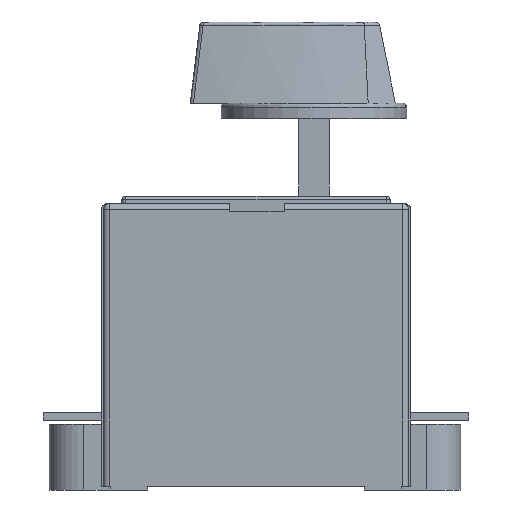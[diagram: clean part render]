
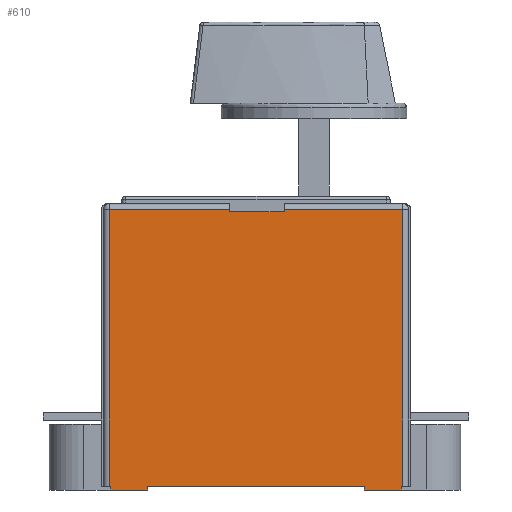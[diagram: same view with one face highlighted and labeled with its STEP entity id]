
A CAD part, left-side view. The second image highlights one B-rep face of the part: STEP entity #610.
In plain terms, the highlighted planar face has unit normal (-1, 0, 0).
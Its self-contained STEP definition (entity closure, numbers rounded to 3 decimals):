
#610=ADVANCED_FACE('',(#1215),#984,.F.);
#984=PLANE('',#6984);
#1215=FACE_OUTER_BOUND('',#1566,.T.);
#1566=EDGE_LOOP('',(#2395,#2396,#2397,#2398,#2399,#2400,#2401,#2402,#2403,
#2404,#2405,#2406,#2407,#2408,#2409,#2410));
#2395=ORIENTED_EDGE('',*,*,#4844,.F.);
#2396=ORIENTED_EDGE('',*,*,#4845,.T.);
#2397=ORIENTED_EDGE('',*,*,#4846,.T.);
#2398=ORIENTED_EDGE('',*,*,#4847,.F.);
#2399=ORIENTED_EDGE('',*,*,#4848,.T.);
#2400=ORIENTED_EDGE('',*,*,#4849,.T.);
#2401=ORIENTED_EDGE('',*,*,#4842,.T.);
#2402=ORIENTED_EDGE('',*,*,#4694,.T.);
#2403=ORIENTED_EDGE('',*,*,#4839,.F.);
#2404=ORIENTED_EDGE('',*,*,#4850,.F.);
#2405=ORIENTED_EDGE('',*,*,#4851,.T.);
#2406=ORIENTED_EDGE('',*,*,#4537,.T.);
#2407=ORIENTED_EDGE('',*,*,#4852,.F.);
#2408=ORIENTED_EDGE('',*,*,#4853,.F.);
#2409=ORIENTED_EDGE('',*,*,#4854,.T.);
#2410=ORIENTED_EDGE('',*,*,#4710,.T.);
#3928=VERTEX_POINT('',#9575);
#3929=VERTEX_POINT('',#9577);
#4077=VERTEX_POINT('',#9902);
#4078=VERTEX_POINT('',#9904);
#4089=VERTEX_POINT('',#9930);
#4092=VERTEX_POINT('',#9936);
#4172=VERTEX_POINT('',#10183);
#4174=VERTEX_POINT('',#10191);
#4175=VERTEX_POINT('',#10195);
#4176=VERTEX_POINT('',#10197);
#4177=VERTEX_POINT('',#10199);
#4178=VERTEX_POINT('',#10201);
#4179=VERTEX_POINT('',#10203);
#4180=VERTEX_POINT('',#10206);
#4181=VERTEX_POINT('',#10209);
#4182=VERTEX_POINT('',#10211);
#4537=EDGE_CURVE('',#3929,#3928,#5507,.T.);
#4694=EDGE_CURVE('',#4078,#4077,#5631,.T.);
#4710=EDGE_CURVE('',#4089,#4092,#5643,.T.);
#4839=EDGE_CURVE('',#4172,#4077,#5757,.T.);
#4842=EDGE_CURVE('',#4174,#4078,#5760,.T.);
#4844=EDGE_CURVE('',#4175,#4092,#5761,.T.);
#4845=EDGE_CURVE('',#4175,#4176,#5762,.T.);
#4846=EDGE_CURVE('',#4176,#4177,#5763,.T.);
#4847=EDGE_CURVE('',#4178,#4177,#5764,.T.);
#4848=EDGE_CURVE('',#4178,#4179,#5765,.T.);
#4849=EDGE_CURVE('',#4179,#4174,#5766,.T.);
#4850=EDGE_CURVE('',#4180,#4172,#5767,.T.);
#4851=EDGE_CURVE('',#4180,#3929,#5768,.T.);
#4852=EDGE_CURVE('',#4181,#3928,#5769,.T.);
#4853=EDGE_CURVE('',#4182,#4181,#5770,.T.);
#4854=EDGE_CURVE('',#4182,#4089,#5771,.T.);
#5507=LINE('',#9576,#6219);
#5631=LINE('',#9903,#6343);
#5643=LINE('',#9937,#6355);
#5757=LINE('',#10184,#6469);
#5760=LINE('',#10190,#6472);
#5761=LINE('',#10194,#6473);
#5762=LINE('',#10196,#6474);
#5763=LINE('',#10198,#6475);
#5764=LINE('',#10200,#6476);
#5765=LINE('',#10202,#6477);
#5766=LINE('',#10204,#6478);
#5767=LINE('',#10205,#6479);
#5768=LINE('',#10207,#6480);
#5769=LINE('',#10208,#6481);
#5770=LINE('',#10210,#6482);
#5771=LINE('',#10212,#6483);
#6219=VECTOR('',#7572,1.);
#6343=VECTOR('',#7804,1.);
#6355=VECTOR('',#7830,1.);
#6469=VECTOR('',#8050,1.);
#6472=VECTOR('',#8057,1.);
#6473=VECTOR('',#8062,1.);
#6474=VECTOR('',#8063,1.);
#6475=VECTOR('',#8064,1.);
#6476=VECTOR('',#8065,1.);
#6477=VECTOR('',#8066,1.);
#6478=VECTOR('',#8067,1.);
#6479=VECTOR('',#8068,1.);
#6480=VECTOR('',#8069,1.);
#6481=VECTOR('',#8070,1.);
#6482=VECTOR('',#8071,1.);
#6483=VECTOR('',#8072,1.);
#6984=AXIS2_PLACEMENT_3D('',#10213,#8073,#8074);
#7572=DIRECTION('',(0.,-1.,0.));
#7804=DIRECTION('',(0.,-1.,0.));
#7830=DIRECTION('',(0.,-1.,0.));
#8050=DIRECTION('',(0.,0.,1.));
#8057=DIRECTION('',(0.,0.,-1.));
#8062=DIRECTION('',(0.,0.,-1.));
#8063=DIRECTION('',(0.,1.,0.));
#8064=DIRECTION('',(0.,0.,-1.));
#8065=DIRECTION('',(0.,-1.,0.));
#8066=DIRECTION('',(0.,0.,1.));
#8067=DIRECTION('',(0.,1.,0.));
#8068=DIRECTION('',(0.,1.,0.));
#8069=DIRECTION('',(0.,0.,1.));
#8070=DIRECTION('',(0.,0.,1.));
#8071=DIRECTION('',(0.,1.,0.));
#8072=DIRECTION('',(0.,0.,1.));
#8073=DIRECTION('',(1.,0.,0.));
#8074=DIRECTION('',(0.,0.,-1.));
#9575=CARTESIAN_POINT('',(-69.,-52.735,-3.9));
#9576=CARTESIAN_POINT('',(-69.,-62.235,-3.9));
#9577=CARTESIAN_POINT('',(-69.,3.265,-3.9));
#9902=CARTESIAN_POINT('',(-69.,12.765,-3.9));
#9903=CARTESIAN_POINT('',(-69.,-62.235,-3.9));
#9904=CARTESIAN_POINT('',(-69.,13.265,-3.9));
#9930=CARTESIAN_POINT('',(-69.,-62.235,-3.9));
#9936=CARTESIAN_POINT('',(-69.,-62.735,-3.9));
#9937=CARTESIAN_POINT('',(-69.,-62.235,-3.9));
#10183=CARTESIAN_POINT('',(-69.,12.765,-4.9));
#10184=CARTESIAN_POINT('',(-69.,12.765,-5.9));
#10190=CARTESIAN_POINT('',(-69.,13.265,69.1));
#10191=CARTESIAN_POINT('',(-69.,13.265,67.6));
#10194=CARTESIAN_POINT('',(-69.,-62.735,69.1));
#10195=CARTESIAN_POINT('',(-69.,-62.735,67.6));
#10196=CARTESIAN_POINT('',(-69.,13.265,67.6));
#10197=CARTESIAN_POINT('',(-69.,-31.985,67.6));
#10198=CARTESIAN_POINT('',(-69.,-31.985,69.1));
#10199=CARTESIAN_POINT('',(-69.,-31.985,67.));
#10200=CARTESIAN_POINT('',(-69.,12.765,67.));
#10201=CARTESIAN_POINT('',(-69.,-17.985,67.));
#10202=CARTESIAN_POINT('',(-69.,-17.985,69.1));
#10203=CARTESIAN_POINT('',(-69.,-17.985,67.6));
#10204=CARTESIAN_POINT('',(-69.,13.265,67.6));
#10205=CARTESIAN_POINT('',(-69.,3.265,-4.9));
#10206=CARTESIAN_POINT('',(-69.,3.265,-4.9));
#10207=CARTESIAN_POINT('',(-69.,3.265,-5.9));
#10208=CARTESIAN_POINT('',(-69.,-52.735,-5.9));
#10209=CARTESIAN_POINT('',(-69.,-52.735,-4.9));
#10210=CARTESIAN_POINT('',(-69.,-62.235,-4.9));
#10211=CARTESIAN_POINT('',(-69.,-62.235,-4.9));
#10212=CARTESIAN_POINT('',(-69.,-62.235,-5.9));
#10213=CARTESIAN_POINT('',(-69.,-62.235,69.1));
